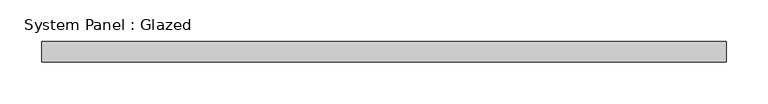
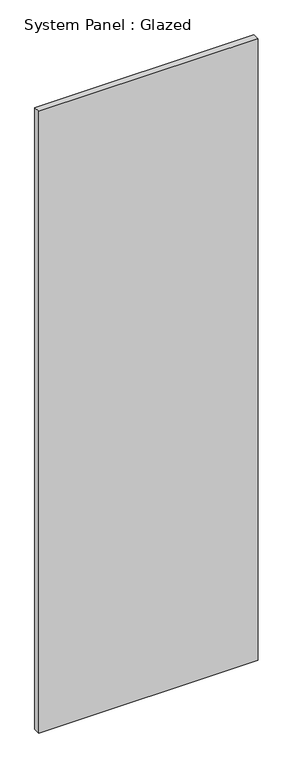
"""IFC4 building model written with IfcOpenShell, lengths in millimetres: plate geometry, System Panel : Glazed."""

from ifc_helpers import new_model, si_unit, origin, origin_with_axes, place, context, project, spatial, polyline, outline, extrude, source, transform, mapped, element, save


def system_panel_glazed_38744f95(model_context):
    return source(origin(), model_context, "Body", "SweptSolid", [
        extrude(outline(polyline([(412.5000002, -49.5), (-412.5000002, -49.5), (-412.5000002, -24.5), (412.5000002, -24.5), (412.5000002, -49.5)])), origin_with_axes(), (0.0, 0.0, 1.0), 2470.0),
    ])


if __name__ == "__main__":
    model = new_model("IFC4")
    model_context = context("Model", 3, world=origin())
    ifc_project = project(units=[si_unit("LENGTHUNIT", "METRE", prefix="MILLI")], contexts=[model_context])
    site = spatial("IfcSite", under=ifc_project)
    building = spatial("IfcBuilding", under=site)
    placement = place(None, origin())
    system_panel_glazed_shape = system_panel_glazed_38744f95(model_context)
    element("IfcPlate", 1, ObjectType="System Panel : Glazed", at=placement, inside=building, context=model_context, shape_type="MappedRepresentation", body=[
        mapped(system_panel_glazed_shape, transform((0.0, 0.0, 0.0), x_axis=(1.0, 0.0, 0.0), y_axis=(0.0, 1.0, 0.0), z_axis=(0.0, 0.0, 1.0))),
    ])
    save(model, "model.ifc")
